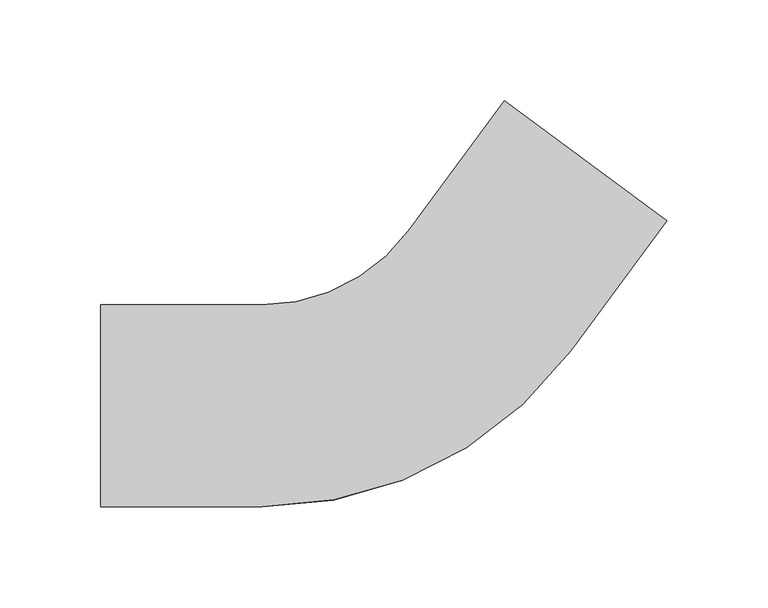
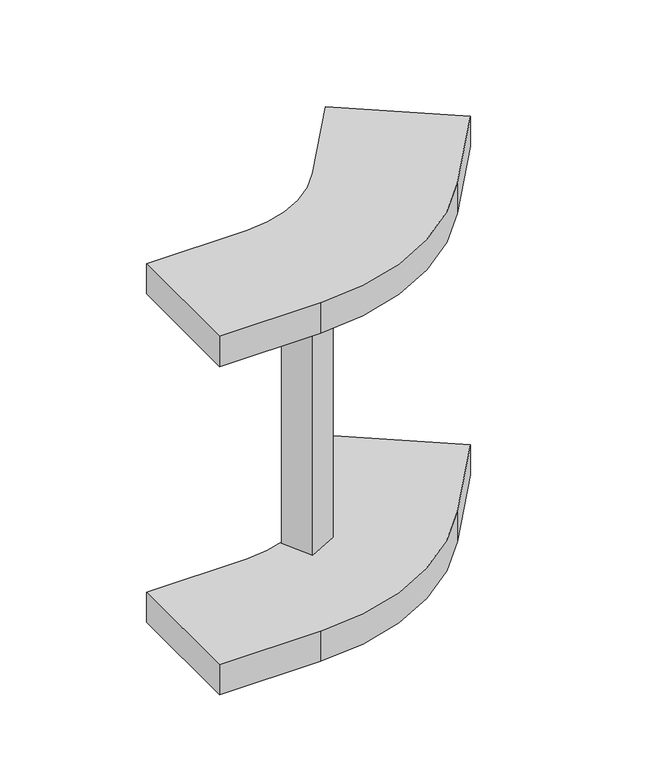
"""IFC4 building model written with IfcOpenShell, lengths in millimetres: cable carrier fitting geometry, Common_はしご垂直外側曲げ : 03 強電_低圧."""

from ifc_helpers import new_model, si_unit, point, frame, frame_2d, origin, place, context, project, spatial, polyline, circle_curve, trimmed, segment, composite_curve, outline, extrude, source, transform, mapped, element, save


def cable_carrier_fitting_229b7f87(model_context):
    return source(origin(), model_context, "Body", "SweptSolid", [
        extrude(outline(polyline([(-18.7736628, 65.3777048), (-7.3282388, 42.7025583), (-30.0033853, 31.2571343), (-41.4488093, 53.9322807), (-18.7736628, 65.3777048)])), frame((0.0, 0.0, -124.6), z_axis=(0.0, 0.0, 1.0), x_axis=(1.0, 0.0, 0.0)), (0.0, 0.0, 1.0), 249.2),
        extrude(outline(composite_curve([segment(polyline([(-150.6658882, -50.0), (-150.6658882, 50.0), (-70.6658882, 50.0)]), True, "CONTINUOUS"), segment(trimmed(circle_curve(frame_2d((-70.6658882, 140.0)), 90.0), [point((-70.6658882, 50.0))], [point((1.7421967, 86.5484402))], True, "CARTESIAN"), True, "CONTINUOUS"), segment(polyline([(1.7421967, 86.5484402), (49.2546943, 150.9111824), (129.7081219, 91.5205604), (82.1956244, 27.1578183)]), True, "CONTINUOUS"), segment(trimmed(circle_curve(frame_2d((-70.6658882, 140.0)), 190.0), [point((82.1956244, 27.1578183))], [point((-70.6658882, -50.0))], False, "CARTESIAN"), True, "CONTINUOUS"), segment(polyline([(-70.6658882, -50.0), (-150.6658882, -50.0)]), True, "CONTINUOUS")], self_intersect=False)), frame((0.0, 0.0, 124.6), z_axis=(0.0, 0.0, 1.0), x_axis=(1.0, 0.0, 0.0)), (0.0, 0.0, 1.0), 25.4),
        extrude(outline(composite_curve([segment(polyline([(-150.6658882, -50.0), (-150.6658882, 50.0), (-70.6658882, 50.0)]), True, "CONTINUOUS"), segment(trimmed(circle_curve(frame_2d((-70.6658882, 140.0)), 90.0), [point((-70.6658882, 50.0))], [point((1.7421967, 86.5484402))], True, "CARTESIAN"), True, "CONTINUOUS"), segment(polyline([(1.7421967, 86.5484402), (49.2546943, 150.9111824), (129.7081219, 91.5205604), (82.1956244, 27.1578183)]), True, "CONTINUOUS"), segment(trimmed(circle_curve(frame_2d((-70.6658882, 140.0)), 190.0), [point((82.1956244, 27.1578183))], [point((-70.6658882, -50.0))], False, "CARTESIAN"), True, "CONTINUOUS"), segment(polyline([(-70.6658882, -50.0), (-150.6658882, -50.0)]), True, "CONTINUOUS")], self_intersect=False)), frame((0.0, 0.0, -150.0), z_axis=(0.0, 0.0, 1.0), x_axis=(1.0, 0.0, 0.0)), (0.0, 0.0, 1.0), 25.4),
    ])


if __name__ == "__main__":
    model = new_model("IFC4")
    model_context = context("Model", 3, world=origin())
    ifc_project = project(units=[si_unit("LENGTHUNIT", "METRE", prefix="MILLI")], contexts=[model_context])
    site = spatial("IfcSite", under=ifc_project)
    building = spatial("IfcBuilding", under=site)
    placement = place(None, origin())
    cable_carrier_fitting_shape = cable_carrier_fitting_229b7f87(model_context)
    element("IfcCableCarrierFitting", 1, ObjectType="Common_はしご垂直外側曲げ : 03 強電_低圧", at=placement, inside=building, context=model_context, shape_type="MappedRepresentation", body=[
        mapped(cable_carrier_fitting_shape, transform((0.0, 0.0, 0.0), x_axis=(1.0, 0.0, 0.0), y_axis=(0.0, 1.0, 0.0), z_axis=(0.0, 0.0, 1.0))),
    ])
    save(model, "model.ifc")
